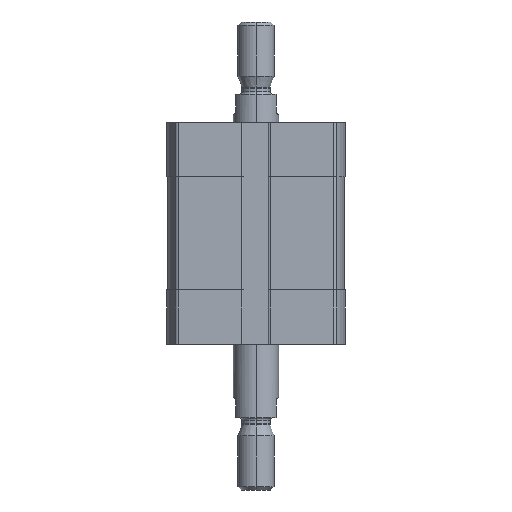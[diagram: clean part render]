
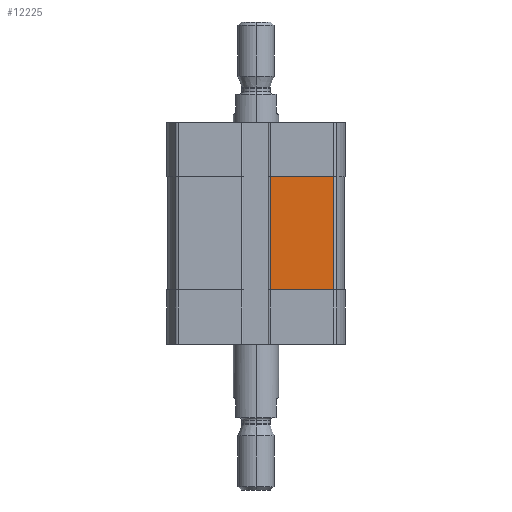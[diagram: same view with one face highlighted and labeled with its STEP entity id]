
A CAD part, left-side view. The second image highlights one B-rep face of the part: STEP entity #12225.
In plain terms, the highlighted planar face has unit normal (-1, 0, 0).
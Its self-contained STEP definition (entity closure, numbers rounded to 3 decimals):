
#148 = VECTOR ( 'NONE', #12207, 1000. ) ;
#173 = LINE ( 'NONE', #4328, #9281 ) ;
#291 = CARTESIAN_POINT ( 'NONE',  ( -19.5, -3.1, -37. ) ) ;
#444 = CARTESIAN_POINT ( 'NONE',  ( -19.5, -3.1, -12. ) ) ;
#756 = EDGE_CURVE ( 'NONE', #2170, #4183, #12531, .T. ) ;
#1186 = DIRECTION ( 'NONE',  ( 0., -1., 0. ) ) ;
#1471 = CARTESIAN_POINT ( 'NONE',  ( -19.5, -17.091, -37. ) ) ;
#1723 = ORIENTED_EDGE ( 'NONE', *, *, #2631, .F. ) ;
#1737 = CARTESIAN_POINT ( 'NONE',  ( -19.5, -3.1, -12. ) ) ;
#2170 = VERTEX_POINT ( 'NONE', #1471 ) ;
#2202 = LINE ( 'NONE', #10470, #9688 ) ;
#2453 = EDGE_LOOP ( 'NONE', ( #1723, #12478, #11209, #3768 ) ) ;
#2465 = VECTOR ( 'NONE', #9743, 1000. ) ;
#2631 = EDGE_CURVE ( 'NONE', #10821, #4183, #8846, .T. ) ;
#3012 = EDGE_CURVE ( 'NONE', #13123, #10821, #2202, .T. ) ;
#3768 = ORIENTED_EDGE ( 'NONE', *, *, #756, .T. ) ;
#3867 = AXIS2_PLACEMENT_3D ( 'NONE', #291, #9653, #4641 ) ;
#4183 = VERTEX_POINT ( 'NONE', #10533 ) ;
#4328 = CARTESIAN_POINT ( 'NONE',  ( -19.5, -3.1, -37. ) ) ;
#4641 = DIRECTION ( 'NONE',  ( 0., 0., 1. ) ) ;
#6341 = CARTESIAN_POINT ( 'NONE',  ( -19.5, -17.091, -37. ) ) ;
#8846 = LINE ( 'NONE', #444, #2465 ) ;
#9151 = EDGE_CURVE ( 'NONE', #13123, #2170, #173, .T. ) ;
#9281 = VECTOR ( 'NONE', #1186, 1000. ) ;
#9653 = DIRECTION ( 'NONE',  ( -1., 0., 0. ) ) ;
#9688 = VECTOR ( 'NONE', #9846, 1000. ) ;
#9743 = DIRECTION ( 'NONE',  ( 0., -1., 0. ) ) ;
#9846 = DIRECTION ( 'NONE',  ( 0., 0., 1. ) ) ;
#10470 = CARTESIAN_POINT ( 'NONE',  ( -19.5, -3.1, -37. ) ) ;
#10533 = CARTESIAN_POINT ( 'NONE',  ( -19.5, -17.091, -12. ) ) ;
#10544 = FACE_OUTER_BOUND ( 'NONE', #2453, .T. ) ;
#10821 = VERTEX_POINT ( 'NONE', #1737 ) ;
#11209 = ORIENTED_EDGE ( 'NONE', *, *, #9151, .T. ) ;
#12056 = CARTESIAN_POINT ( 'NONE',  ( -19.5, -3.1, -37. ) ) ;
#12207 = DIRECTION ( 'NONE',  ( 0., 0., 1. ) ) ;
#12225 = ADVANCED_FACE ( 'NONE', ( #10544 ), #12920, .T. ) ;
#12478 = ORIENTED_EDGE ( 'NONE', *, *, #3012, .F. ) ;
#12531 = LINE ( 'NONE', #6341, #148 ) ;
#12920 = PLANE ( 'NONE',  #3867 ) ;
#13123 = VERTEX_POINT ( 'NONE', #12056 ) ;
